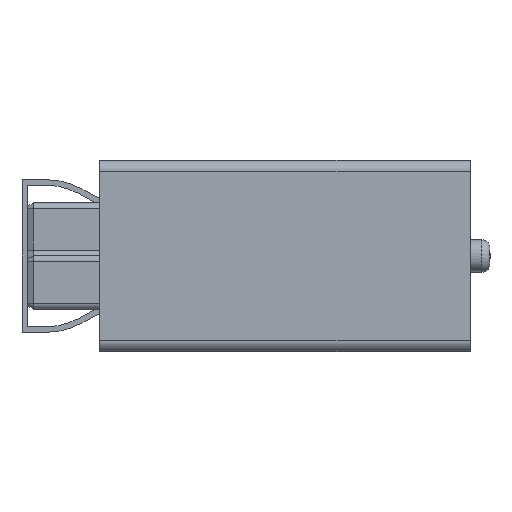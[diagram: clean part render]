
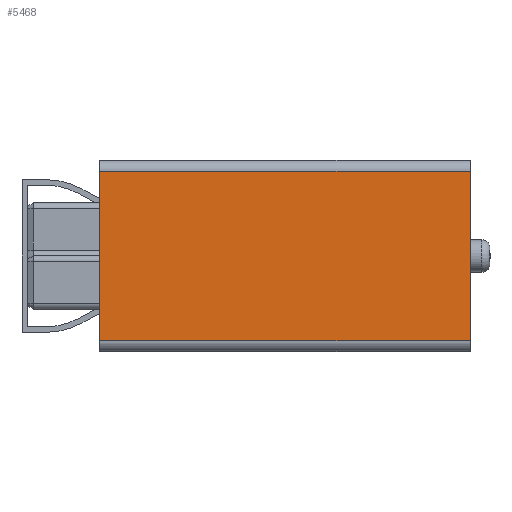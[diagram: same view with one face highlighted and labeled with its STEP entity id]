
A CAD part, left-side view. The second image highlights one B-rep face of the part: STEP entity #5468.
In plain terms, the highlighted planar face has unit normal (-1, 0, 0).
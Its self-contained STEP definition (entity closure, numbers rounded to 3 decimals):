
#5178 = VERTEX_POINT ( 'NONE', #25462 ) ;
#5468 = ADVANCED_FACE ( 'NONE', ( #99415 ), #43499, .F. ) ;
#5617 = VECTOR ( 'NONE', #70132, 1000. ) ;
#7904 = DIRECTION ( 'NONE',  ( 1., 0., 0. ) ) ;
#8891 = CARTESIAN_POINT ( 'NONE',  ( -26.065, -9.085, 3. ) ) ;
#16835 = EDGE_CURVE ( 'NONE', #5178, #142487, #135898, .T. ) ;
#18413 = VECTOR ( 'NONE', #54721, 1000. ) ;
#20813 = DIRECTION ( 'NONE',  ( 0., 0., -1. ) ) ;
#25462 = CARTESIAN_POINT ( 'NONE',  ( -26.065, -9.085, 3. ) ) ;
#26711 = ORIENTED_EDGE ( 'NONE', *, *, #45986, .F. ) ;
#41951 = CARTESIAN_POINT ( 'NONE',  ( -26.065, 4.065, -3. ) ) ;
#42001 = DIRECTION ( 'NONE',  ( 0., 0., -1. ) ) ;
#43499 = PLANE ( 'NONE',  #107214 ) ;
#43507 = LINE ( 'NONE', #78266, #75648 ) ;
#45271 = CARTESIAN_POINT ( 'NONE',  ( -26.065, 4.065, 3. ) ) ;
#45897 = CARTESIAN_POINT ( 'NONE',  ( -26.065, -9.085, -3. ) ) ;
#45986 = EDGE_CURVE ( 'NONE', #145829, #5178, #111431, .T. ) ;
#54196 = EDGE_CURVE ( 'NONE', #145829, #129437, #43507, .T. ) ;
#54721 = DIRECTION ( 'NONE',  ( 0., -1., 0. ) ) ;
#55491 = EDGE_LOOP ( 'NONE', ( #26711, #137098, #61672, #143723 ) ) ;
#61672 = ORIENTED_EDGE ( 'NONE', *, *, #108654, .F. ) ;
#67910 = CARTESIAN_POINT ( 'NONE',  ( -26.065, 4.065, -3. ) ) ;
#70132 = DIRECTION ( 'NONE',  ( 0., 1., 0. ) ) ;
#75648 = VECTOR ( 'NONE', #20813, 1000. ) ;
#78266 = CARTESIAN_POINT ( 'NONE',  ( -26.065, 4.065, -3. ) ) ;
#99415 = FACE_OUTER_BOUND ( 'NONE', #55491, .T. ) ;
#103398 = LINE ( 'NONE', #67910, #5617 ) ;
#107214 = AXIS2_PLACEMENT_3D ( 'NONE', #147784, #7904, #42001 ) ;
#108654 = EDGE_CURVE ( 'NONE', #142487, #129437, #103398, .T. ) ;
#111431 = LINE ( 'NONE', #134897, #18413 ) ;
#113272 = DIRECTION ( 'NONE',  ( 0., 0., -1. ) ) ;
#129437 = VERTEX_POINT ( 'NONE', #41951 ) ;
#134897 = CARTESIAN_POINT ( 'NONE',  ( -26.065, -1.085, 3. ) ) ;
#135898 = LINE ( 'NONE', #8891, #146366 ) ;
#137098 = ORIENTED_EDGE ( 'NONE', *, *, #54196, .T. ) ;
#142487 = VERTEX_POINT ( 'NONE', #45897 ) ;
#143723 = ORIENTED_EDGE ( 'NONE', *, *, #16835, .F. ) ;
#145829 = VERTEX_POINT ( 'NONE', #45271 ) ;
#146366 = VECTOR ( 'NONE', #113272, 1000. ) ;
#147784 = CARTESIAN_POINT ( 'NONE',  ( -26.065, 6.615, 3. ) ) ;
